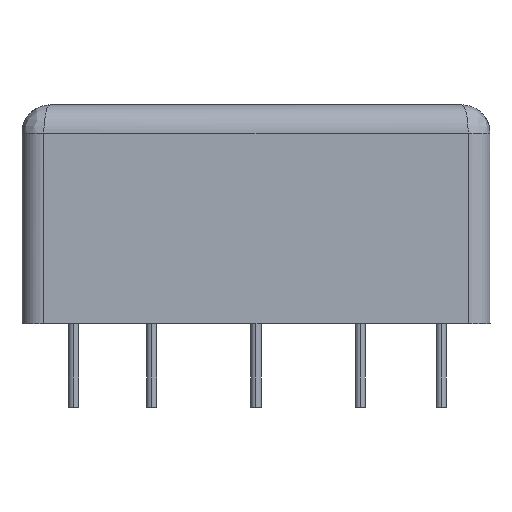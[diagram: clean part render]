
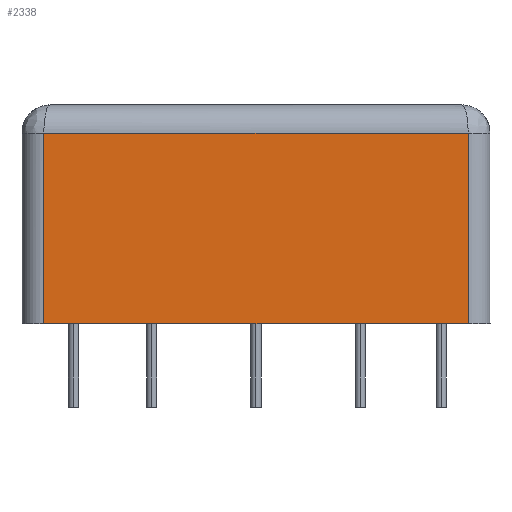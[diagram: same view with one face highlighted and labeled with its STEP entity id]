
A CAD part, left-side view. The second image highlights one B-rep face of the part: STEP entity #2338.
In plain terms, the highlighted planar face has unit normal (-1, 0, 0).
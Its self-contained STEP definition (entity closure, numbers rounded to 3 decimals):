
#54=DIRECTION('',(0.,-1.,0.));
#55=VECTOR('',#54,40.7);
#56=CARTESIAN_POINT('',(-27.35,20.35,0.));
#57=LINE('',#56,#55);
#343=DIRECTION('',(0.,0.,1.));
#344=VECTOR('',#343,18.3);
#345=CARTESIAN_POINT('',(-27.35,-20.35,0.));
#346=LINE('',#345,#344);
#369=DIRECTION('',(0.,-1.,0.));
#370=VECTOR('',#369,40.7);
#371=CARTESIAN_POINT('',(-27.35,20.35,18.3));
#372=LINE('',#371,#370);
#373=DIRECTION('',(0.,0.,1.));
#374=VECTOR('',#373,18.3);
#375=CARTESIAN_POINT('',(-27.35,20.35,0.));
#376=LINE('',#375,#374);
#1454=CARTESIAN_POINT('',(-27.35,20.35,0.));
#1456=VERTEX_POINT('',#1454);
#1457=CARTESIAN_POINT('',(-27.35,-20.35,0.));
#1458=VERTEX_POINT('',#1457);
#1489=CARTESIAN_POINT('',(-27.35,20.35,18.3));
#1490=CARTESIAN_POINT('',(-27.35,-20.35,
18.3));
#1491=VERTEX_POINT('',#1489);
#1492=VERTEX_POINT('',#1490);
#2327=CARTESIAN_POINT('',(-27.35,20.35,0.));
#2328=DIRECTION('',(-1.,0.,0.));
#2329=DIRECTION('',(0.,-1.,0.));
#2330=AXIS2_PLACEMENT_3D('',#2327,#2328,#2329);
#2331=PLANE('',#2330);
#2332=ORIENTED_EDGE('',*,*,#2319,.T.);
#2333=ORIENTED_EDGE('',*,*,#2257,.F.);
#2334=ORIENTED_EDGE('',*,*,#1880,.F.);
#2335=ORIENTED_EDGE('',*,*,#1940,.T.);
#2336=EDGE_LOOP('',(#2332,#2333,#2334,#2335));
#2337=FACE_OUTER_BOUND('',#2336,.F.);
#1880=EDGE_CURVE('',#1456,#1458,#57,.T.);
#1940=EDGE_CURVE('',#1456,#1491,#376,.T.);
#2257=EDGE_CURVE('',#1458,#1492,#346,.T.);
#2319=EDGE_CURVE('',#1491,#1492,#372,.T.);
#2338=ADVANCED_FACE('',(#2337),#2331,.T.);
